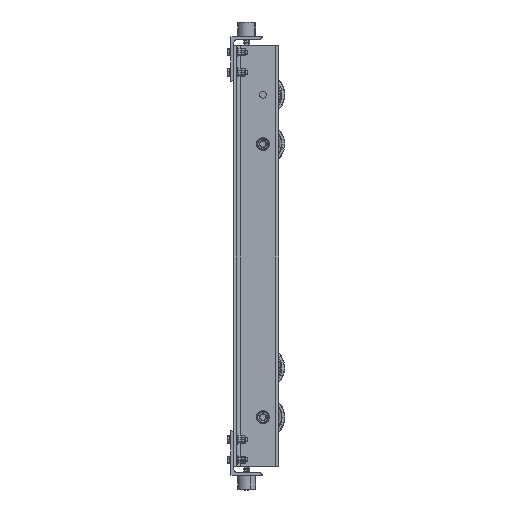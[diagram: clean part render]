
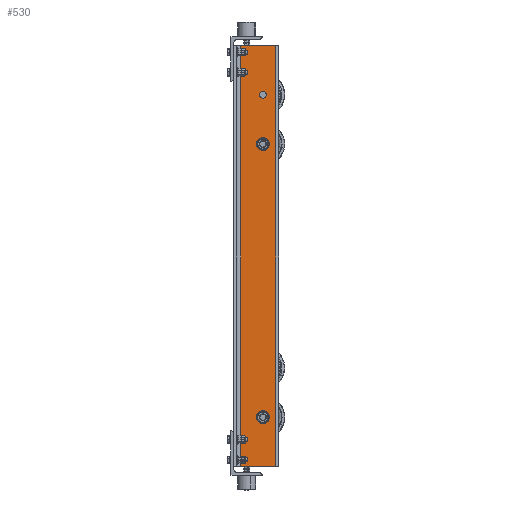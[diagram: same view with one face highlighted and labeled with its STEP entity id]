
A CAD part, left-side view. The second image highlights one B-rep face of the part: STEP entity #530.
In plain terms, the highlighted planar face has unit normal (-1, 0, 0) as drawn and (1, 0, 0) by its records, which use the part's own axes.
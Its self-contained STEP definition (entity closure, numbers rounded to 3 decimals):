
#149 = CARTESIAN_POINT ( 'NONE',  ( 7.938, 82.55, -457.2 ) ) ;
#211 = DIRECTION ( 'NONE',  ( -1., 0., 0. ) ) ;
#423 = DIRECTION ( 'NONE',  ( 0., -1., 0. ) ) ;
#530 = ADVANCED_FACE ( 'NONE', ( #2149, #2971, #9717, #9657 ), #1149, .F. ) ;
#580 = EDGE_LOOP ( 'NONE', ( #11161, #2912 ) ) ;
#648 = AXIS2_PLACEMENT_3D ( 'NONE', #11684, #5963, #9783 ) ;
#759 = AXIS2_PLACEMENT_3D ( 'NONE', #1355, #8978, #423 ) ;
#856 = VERTEX_POINT ( 'NONE', #1958 ) ;
#874 = LINE ( 'NONE', #4684, #9719 ) ;
#1085 = CARTESIAN_POINT ( 'NONE',  ( 7.937, 119.068, 596.9 ) ) ;
#1149 = PLANE ( 'NONE',  #10688 ) ;
#1211 = EDGE_CURVE ( 'NONE', #856, #7712, #874, .T. ) ;
#1251 = CARTESIAN_POINT ( 'NONE',  ( 7.938, 82.55, 317.5 ) ) ;
#1294 = CARTESIAN_POINT ( 'NONE',  ( 7.938, 82.55, -447.611 ) ) ;
#1355 = CARTESIAN_POINT ( 'NONE',  ( 7.938, 82.55, 457.2 ) ) ;
#1421 = DIRECTION ( 'NONE',  ( 0., -1., 0. ) ) ;
#1513 = DIRECTION ( 'NONE',  ( -1., 0., 0. ) ) ;
#1575 = ORIENTED_EDGE ( 'NONE', *, *, #1211, .F. ) ;
#1662 = CIRCLE ( 'NONE', #3651, 9.588 ) ;
#1706 = CARTESIAN_POINT ( 'NONE',  ( 7.937, 119.068, -596.9 ) ) ;
#1846 = DIRECTION ( 'NONE',  ( 0., -1., 0. ) ) ;
#1958 = CARTESIAN_POINT ( 'NONE',  ( 7.937, 119.068, 596.9 ) ) ;
#2149 = FACE_BOUND ( 'NONE', #8512, .T. ) ;
#2186 = DIRECTION ( 'NONE',  ( 0., 1., 0. ) ) ;
#2218 = EDGE_CURVE ( 'NONE', #11758, #2640, #10145, .T. ) ;
#2246 = CARTESIAN_POINT ( 'NONE',  ( 7.938, 82.55, -466.788 ) ) ;
#2337 = CARTESIAN_POINT ( 'NONE',  ( 7.938, 82.55, 327.089 ) ) ;
#2359 = LINE ( 'NONE', #10906, #6240 ) ;
#2491 = DIRECTION ( 'NONE',  ( -1., 0., 0. ) ) ;
#2640 = VERTEX_POINT ( 'NONE', #8150 ) ;
#2673 = ORIENTED_EDGE ( 'NONE', *, *, #2218, .T. ) ;
#2700 = VERTEX_POINT ( 'NONE', #2337 ) ;
#2842 = DIRECTION ( 'NONE',  ( -1., 0., 0. ) ) ;
#2912 = ORIENTED_EDGE ( 'NONE', *, *, #5925, .T. ) ;
#2971 = FACE_BOUND ( 'NONE', #4483, .T. ) ;
#2991 = VECTOR ( 'NONE', #2186, 1000. ) ;
#3097 = DIRECTION ( 'NONE',  ( 0., -1., 0. ) ) ;
#3158 = DIRECTION ( 'NONE',  ( -1., 0., 0. ) ) ;
#3182 = ORIENTED_EDGE ( 'NONE', *, *, #11328, .T. ) ;
#3625 = CIRCLE ( 'NONE', #4420, 9.588 ) ;
#3651 = AXIS2_PLACEMENT_3D ( 'NONE', #9982, #2491, #1421 ) ;
#4109 = DIRECTION ( 'NONE',  ( 0., 0., -1. ) ) ;
#4204 = VERTEX_POINT ( 'NONE', #7186 ) ;
#4420 = AXIS2_PLACEMENT_3D ( 'NONE', #7718, #3158, #3097 ) ;
#4483 = EDGE_LOOP ( 'NONE', ( #3182, #10323 ) ) ;
#4684 = CARTESIAN_POINT ( 'NONE',  ( 7.937, 119.068, 596.9 ) ) ;
#5110 = CARTESIAN_POINT ( 'NONE',  ( 7.937, 119.068, -596.9 ) ) ;
#5332 = EDGE_CURVE ( 'NONE', #7855, #856, #6799, .T. ) ;
#5396 = ORIENTED_EDGE ( 'NONE', *, *, #9389, .T. ) ;
#5818 = ORIENTED_EDGE ( 'NONE', *, *, #10594, .T. ) ;
#5925 = EDGE_CURVE ( 'NONE', #8631, #10119, #3625, .T. ) ;
#5963 = DIRECTION ( 'NONE',  ( -1., 0., 0. ) ) ;
#6057 = CARTESIAN_POINT ( 'NONE',  ( 7.937, 119.068, 596.9 ) ) ;
#6240 = VECTOR ( 'NONE', #4109, 1000. ) ;
#6315 = CARTESIAN_POINT ( 'NONE',  ( 7.938, 19.05, 596.9 ) ) ;
#6480 = CARTESIAN_POINT ( 'NONE',  ( 7.938, 82.55, 307.911 ) ) ;
#6618 = AXIS2_PLACEMENT_3D ( 'NONE', #149, #2842, #1846 ) ;
#6799 = LINE ( 'NONE', #6057, #2991 ) ;
#7186 = CARTESIAN_POINT ( 'NONE',  ( 7.938, 19.05, -596.9 ) ) ;
#7472 = VECTOR ( 'NONE', #9268, 1000. ) ;
#7690 = EDGE_CURVE ( 'NONE', #9848, #2700, #10632, .T. ) ;
#7711 = DIRECTION ( 'NONE',  ( 0., -1., 0. ) ) ;
#7712 = VERTEX_POINT ( 'NONE', #5110 ) ;
#7718 = CARTESIAN_POINT ( 'NONE',  ( 7.938, 82.55, -457.2 ) ) ;
#7794 = ORIENTED_EDGE ( 'NONE', *, *, #5332, .F. ) ;
#7855 = VERTEX_POINT ( 'NONE', #6315 ) ;
#7937 = DIRECTION ( 'NONE',  ( 0., -1., 0. ) ) ;
#8150 = CARTESIAN_POINT ( 'NONE',  ( 7.938, 82.55, 447.612 ) ) ;
#8505 = DIRECTION ( 'NONE',  ( 0., 0., -1. ) ) ;
#8512 = EDGE_LOOP ( 'NONE', ( #2673, #5818 ) ) ;
#8631 = VERTEX_POINT ( 'NONE', #2246 ) ;
#8978 = DIRECTION ( 'NONE',  ( -1., 0., 0. ) ) ;
#8995 = EDGE_LOOP ( 'NONE', ( #5396, #1575, #7794, #9413 ) ) ;
#9144 = LINE ( 'NONE', #1706, #7472 ) ;
#9262 = AXIS2_PLACEMENT_3D ( 'NONE', #1251, #1513, #7937 ) ;
#9268 = DIRECTION ( 'NONE',  ( 0., 1., 0. ) ) ;
#9389 = EDGE_CURVE ( 'NONE', #4204, #7712, #9144, .T. ) ;
#9413 = ORIENTED_EDGE ( 'NONE', *, *, #11268, .T. ) ;
#9437 = CIRCLE ( 'NONE', #648, 9.588 ) ;
#9657 = FACE_OUTER_BOUND ( 'NONE', #8995, .T. ) ;
#9717 = FACE_BOUND ( 'NONE', #580, .T. ) ;
#9719 = VECTOR ( 'NONE', #8505, 1000. ) ;
#9783 = DIRECTION ( 'NONE',  ( 0., -1., 0. ) ) ;
#9848 = VERTEX_POINT ( 'NONE', #6480 ) ;
#9982 = CARTESIAN_POINT ( 'NONE',  ( 7.938, 82.55, 317.5 ) ) ;
#10031 = CIRCLE ( 'NONE', #6618, 9.588 ) ;
#10119 = VERTEX_POINT ( 'NONE', #1294 ) ;
#10145 = CIRCLE ( 'NONE', #759, 9.588 ) ;
#10323 = ORIENTED_EDGE ( 'NONE', *, *, #7690, .T. ) ;
#10594 = EDGE_CURVE ( 'NONE', #2640, #11758, #9437, .T. ) ;
#10632 = CIRCLE ( 'NONE', #9262, 9.588 ) ;
#10688 = AXIS2_PLACEMENT_3D ( 'NONE', #1085, #211, #7711 ) ;
#10712 = EDGE_CURVE ( 'NONE', #10119, #8631, #10031, .T. ) ;
#10906 = CARTESIAN_POINT ( 'NONE',  ( 7.938, 19.05, 596.9 ) ) ;
#11161 = ORIENTED_EDGE ( 'NONE', *, *, #10712, .T. ) ;
#11268 = EDGE_CURVE ( 'NONE', #7855, #4204, #2359, .T. ) ;
#11328 = EDGE_CURVE ( 'NONE', #2700, #9848, #1662, .T. ) ;
#11684 = CARTESIAN_POINT ( 'NONE',  ( 7.938, 82.55, 457.2 ) ) ;
#11758 = VERTEX_POINT ( 'NONE', #11962 ) ;
#11962 = CARTESIAN_POINT ( 'NONE',  ( 7.938, 82.55, 466.789 ) ) ;
